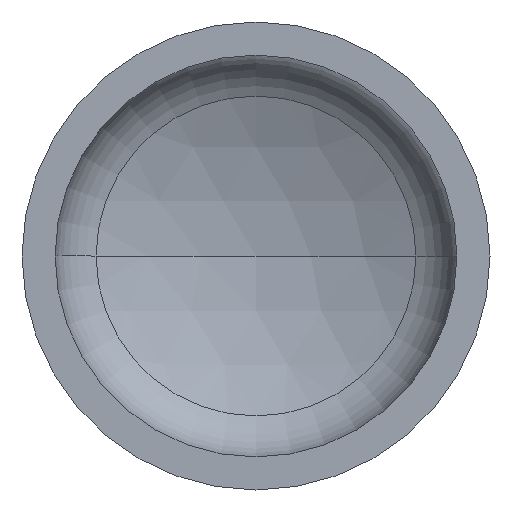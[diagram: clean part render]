
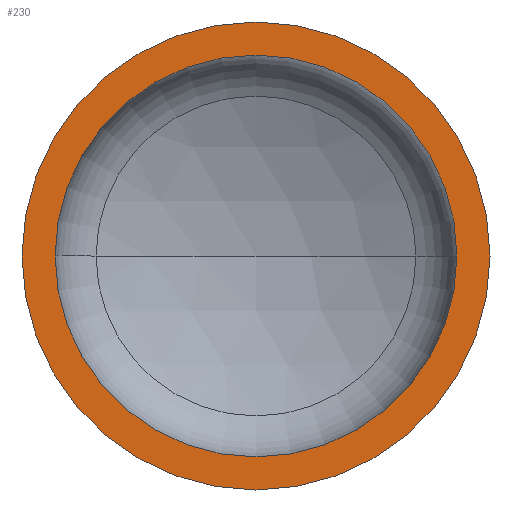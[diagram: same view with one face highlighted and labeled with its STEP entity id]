
A CAD part, front view. The second image highlights one B-rep face of the part: STEP entity #230.
In plain terms, the highlighted planar face has unit normal (0, -1, 0).
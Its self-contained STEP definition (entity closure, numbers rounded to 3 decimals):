
#6 = DIRECTION ( 'NONE',  ( 0., 1., 0. ) ) ;
#9 = DIRECTION ( 'NONE',  ( -1., 0., 0. ) ) ;
#14 = EDGE_LOOP ( 'NONE', ( #141, #227 ) ) ;
#21 = PLANE ( 'NONE',  #51 ) ;
#38 = VERTEX_POINT ( 'NONE', #247 ) ;
#41 = ORIENTED_EDGE ( 'NONE', *, *, #103, .F. ) ;
#51 = AXIS2_PLACEMENT_3D ( 'NONE', #302, #6, #9 ) ;
#55 = CARTESIAN_POINT ( 'NONE',  ( 0., 0., 0. ) ) ;
#58 = DIRECTION ( 'NONE',  ( 0., -1., 0. ) ) ;
#65 = EDGE_LOOP ( 'NONE', ( #41, #107 ) ) ;
#69 = AXIS2_PLACEMENT_3D ( 'NONE', #292, #222, #284 ) ;
#71 = AXIS2_PLACEMENT_3D ( 'NONE', #299, #298, #306 ) ;
#85 = AXIS2_PLACEMENT_3D ( 'NONE', #235, #233, #329 ) ;
#88 = EDGE_CURVE ( 'NONE', #112, #143, #215, .T. ) ;
#102 = EDGE_CURVE ( 'NONE', #143, #112, #386, .T. ) ;
#103 = EDGE_CURVE ( 'NONE', #116, #38, #317, .T. ) ;
#107 = ORIENTED_EDGE ( 'NONE', *, *, #399, .F. ) ;
#112 = VERTEX_POINT ( 'NONE', #300 ) ;
#116 = VERTEX_POINT ( 'NONE', #293 ) ;
#141 = ORIENTED_EDGE ( 'NONE', *, *, #88, .T. ) ;
#143 = VERTEX_POINT ( 'NONE', #213 ) ;
#204 = FACE_BOUND ( 'NONE', #65, .T. ) ;
#213 = CARTESIAN_POINT ( 'NONE',  ( -850., 0., 0. ) ) ;
#215 = CIRCLE ( 'NONE', #85, 850. ) ;
#222 = DIRECTION ( 'NONE',  ( 0., -1., 0. ) ) ;
#227 = ORIENTED_EDGE ( 'NONE', *, *, #102, .T. ) ;
#230 = ADVANCED_FACE ( 'NONE', ( #204, #301 ), #21, .F. ) ;
#233 = DIRECTION ( 'NONE',  ( 0., -1., 0. ) ) ;
#235 = CARTESIAN_POINT ( 'NONE',  ( 0., 0., 0. ) ) ;
#247 = CARTESIAN_POINT ( 'NONE',  ( -730., 0., 0. ) ) ;
#284 = DIRECTION ( 'NONE',  ( 1., 0., 0. ) ) ;
#292 = CARTESIAN_POINT ( 'NONE',  ( 0., 0., 0. ) ) ;
#293 = CARTESIAN_POINT ( 'NONE',  ( 730., 0., 0. ) ) ;
#298 = DIRECTION ( 'NONE',  ( 0., -1., 0. ) ) ;
#299 = CARTESIAN_POINT ( 'NONE',  ( 0., 0., 0. ) ) ;
#300 = CARTESIAN_POINT ( 'NONE',  ( 850., 0., 0. ) ) ;
#301 = FACE_OUTER_BOUND ( 'NONE', #14, .T. ) ;
#302 = CARTESIAN_POINT ( 'NONE',  ( -850., 0., 0. ) ) ;
#306 = DIRECTION ( 'NONE',  ( 1., 0., 0. ) ) ;
#317 = CIRCLE ( 'NONE', #69, 730. ) ;
#329 = DIRECTION ( 'NONE',  ( 1., 0., 0. ) ) ;
#380 = AXIS2_PLACEMENT_3D ( 'NONE', #55, #58, #408 ) ;
#386 = CIRCLE ( 'NONE', #71, 850. ) ;
#389 = CIRCLE ( 'NONE', #380, 730. ) ;
#399 = EDGE_CURVE ( 'NONE', #38, #116, #389, .T. ) ;
#408 = DIRECTION ( 'NONE',  ( 1., 0., 0. ) ) ;
